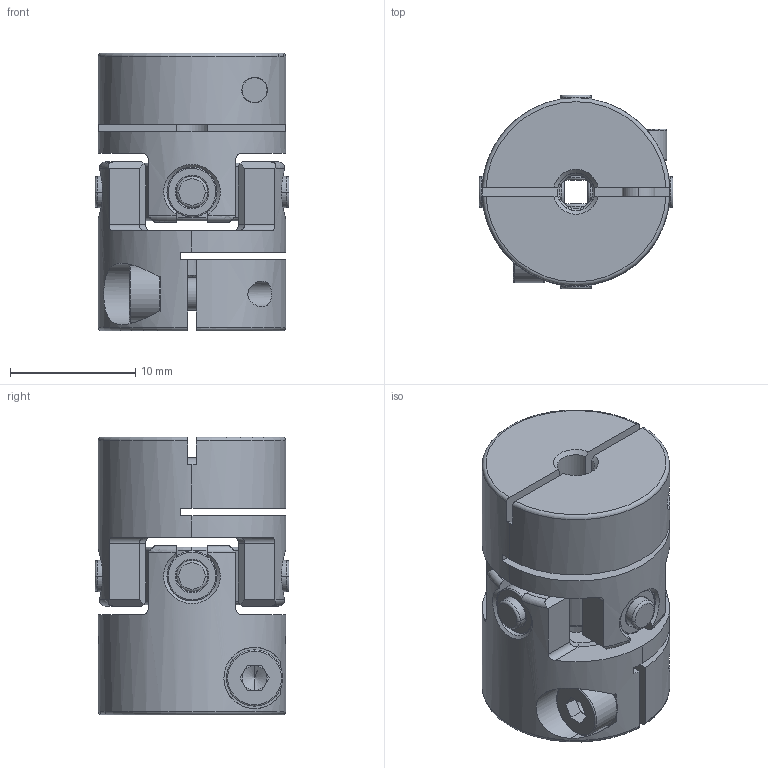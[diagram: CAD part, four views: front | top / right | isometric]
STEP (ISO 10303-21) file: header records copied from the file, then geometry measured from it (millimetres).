
FILE_DESCRIPTION (( 'STEP AP203' ), '1' );
FILE_NAME ('SCJA-15C-3X6.35_203.STEP', '2013-03-08T05:31:10', ( '' ), ( '' ), 'SwSTEP 2.0', 'SolidWorks 2012', '' );
FILE_SCHEMA (( 'CONFIG_CONTROL_DESIGN' ));
Length unit declared in the file: millimetre
Products named in the file (1): SCJA-15C-3X6.35_203
Bounding box: 15.5 x 15.5 x 22.2 mm (x, y, z)
Volume: 2910.2 mm3; surface area: 3044.5 mm2
Topology: 1 solids, 1 shells, 361 faces, 894 edges, 541 vertices
Faces by surface type: cylinder 118, plane 118, torus 76, cone 37, bspline 12
Entity records: 15628 total; most frequent: CARTESIAN_POINT 7127, DIRECTION 1789, ORIENTED_EDGE 1780, EDGE_CURVE 890, AXIS2_PLACEMENT_3D 743, VERTEX_POINT 541, CIRCLE 393, EDGE_LOOP 385
